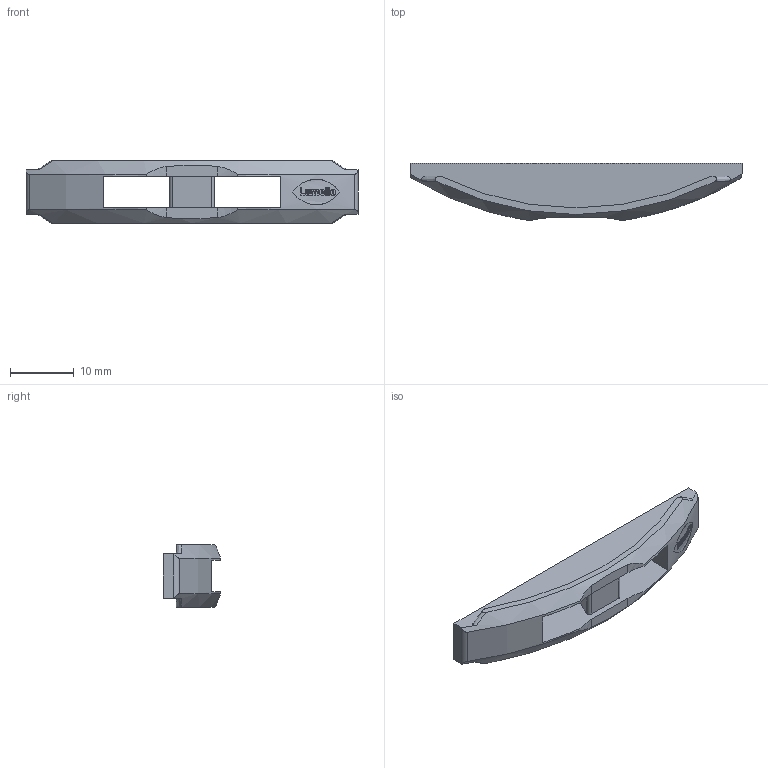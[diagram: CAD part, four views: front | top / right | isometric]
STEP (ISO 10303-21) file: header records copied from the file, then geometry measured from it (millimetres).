
FILE_DESCRIPTION(/* description */ (''),/* implementation_level */ '2;1');
FILE_NAME(/* name */ 'C:\Users\matthiask.LAMELLONET\Desktop\Öfftentliche Daten\CAD-Tenso P-10\Tenso_P-10_Verbinderhaelfte_ohne_Feder.stp',/* time_stamp */ '2022-07-04T08:34:18+02:00',/* author */ ('matthiask'),/* organization */ (''),/* preprocessor_version */ 'ST-DEVELOPER v18',/* originating_system */ 'Autodesk Inventor 2020',/* authorisation */ '');
FILE_SCHEMA (('AUTOMOTIVE_DESIGN { 1 0 10303 214 3 1 1 }'));
Length unit declared in the file: millimetre
Products named in the file (1): Schildteil Tenso P-10
Bounding box: 52 x 8.99 x 9.8 mm (x, y, z)
Volume: 1385.3 mm3; surface area: 2139.6 mm2
Topology: 1 solids, 1 shells, 260 faces, 701 edges, 466 vertices
Faces by surface type: plane 123, bspline 104, cylinder 31, cone 2
Entity records: 10211 total; most frequent: CARTESIAN_POINT 4329, ORIENTED_EDGE 1402, DIRECTION 855, EDGE_CURVE 701, VERTEX_POINT 466, LINE 393, VECTOR 393, EDGE_LOOP 287
